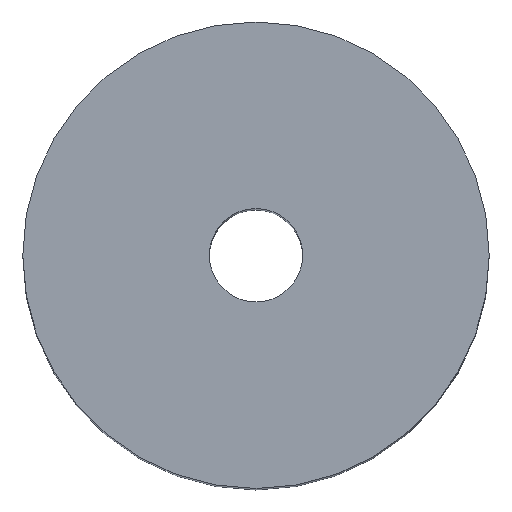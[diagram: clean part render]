
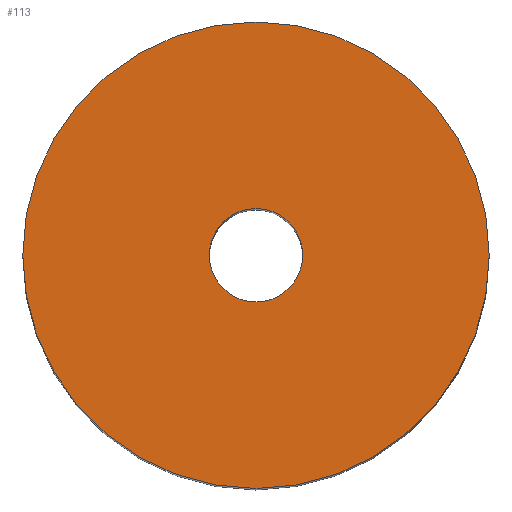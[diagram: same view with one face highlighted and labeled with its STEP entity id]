
A CAD part, top view. The second image highlights one B-rep face of the part: STEP entity #113.
In plain terms, the highlighted planar face has unit normal (0, 0, 1).
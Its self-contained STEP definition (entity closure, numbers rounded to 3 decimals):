
#113=ADVANCED_FACE('',(#121,#122),#119,.T.);
#119=PLANE('',#190);
#121=FACE_BOUND('',#125,.T.);
#122=FACE_BOUND('',#126,.T.);
#125=EDGE_LOOP('',(#133,#134));
#126=EDGE_LOOP('',(#135,#136));
#133=ORIENTED_EDGE('',*,*,#165,.T.);
#134=ORIENTED_EDGE('',*,*,#166,.T.);
#135=ORIENTED_EDGE('',*,*,#167,.F.);
#136=ORIENTED_EDGE('',*,*,#168,.F.);
#157=VERTEX_POINT('',#236);
#158=VERTEX_POINT('',#237);
#159=VERTEX_POINT('',#240);
#160=VERTEX_POINT('',#241);
#165=EDGE_CURVE('',#157,#158,#177,.T.);
#166=EDGE_CURVE('',#158,#157,#178,.T.);
#167=EDGE_CURVE('',#159,#160,#179,.T.);
#168=EDGE_CURVE('',#160,#159,#180,.T.);
#177=CIRCLE('',#186,55.);
#178=CIRCLE('',#187,55.);
#179=CIRCLE('',#188,11.);
#180=CIRCLE('',#189,11.);
#186=AXIS2_PLACEMENT_3D('',#235,#202,#203);
#187=AXIS2_PLACEMENT_3D('',#238,#204,#205);
#188=AXIS2_PLACEMENT_3D('',#239,#206,#207);
#189=AXIS2_PLACEMENT_3D('',#242,#208,#209);
#190=AXIS2_PLACEMENT_3D('',#243,#210,#211);
#202=DIRECTION('',(0.,0.,1.));
#203=DIRECTION('',(0.,1.,0.));
#204=DIRECTION('',(0.,0.,1.));
#205=DIRECTION('',(0.,-1.,0.));
#206=DIRECTION('',(0.,0.,1.));
#207=DIRECTION('',(0.,-1.,0.));
#208=DIRECTION('',(0.,0.,1.));
#209=DIRECTION('',(0.,1.,0.));
#210=DIRECTION('',(0.,0.,1.));
#211=DIRECTION('',(0.,1.,0.));
#235=CARTESIAN_POINT('',(0.,0.,200.));
#236=CARTESIAN_POINT('',(-55.,0.,200.));
#237=CARTESIAN_POINT('',(55.,0.,200.));
#238=CARTESIAN_POINT('',(0.,0.,200.));
#239=CARTESIAN_POINT('',(0.,0.,200.));
#240=CARTESIAN_POINT('',(11.,0.,200.));
#241=CARTESIAN_POINT('',(-11.,0.,200.));
#242=CARTESIAN_POINT('',(0.,0.,200.));
#243=CARTESIAN_POINT('',(0.,0.,200.));
